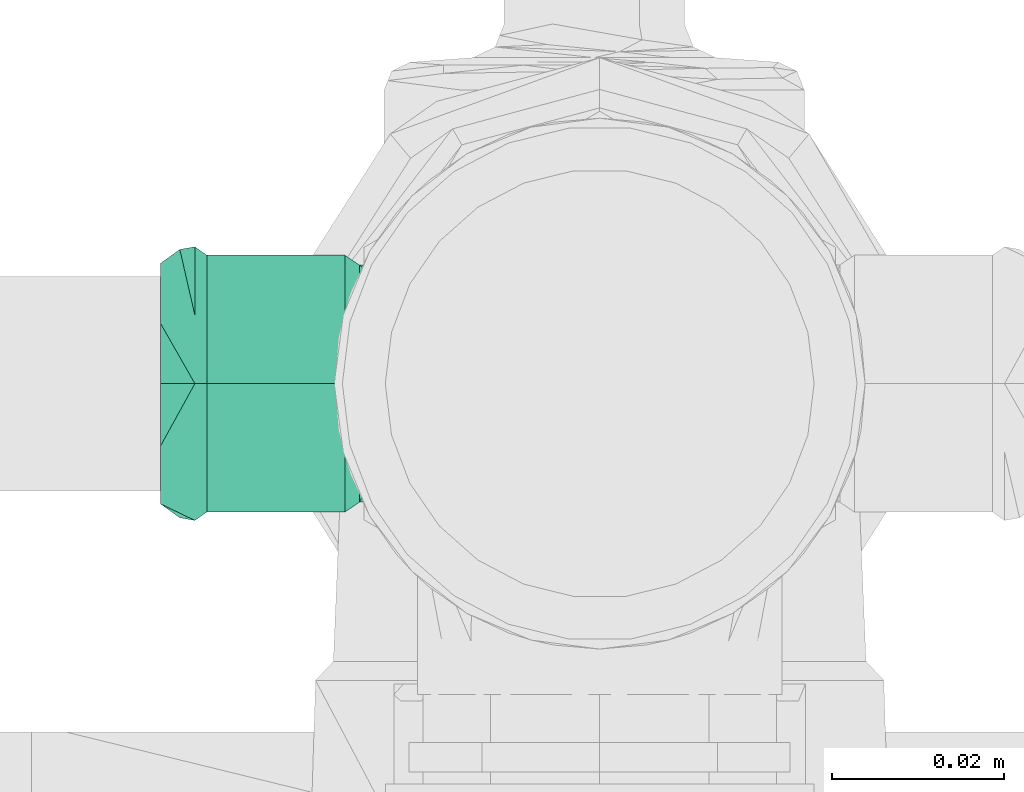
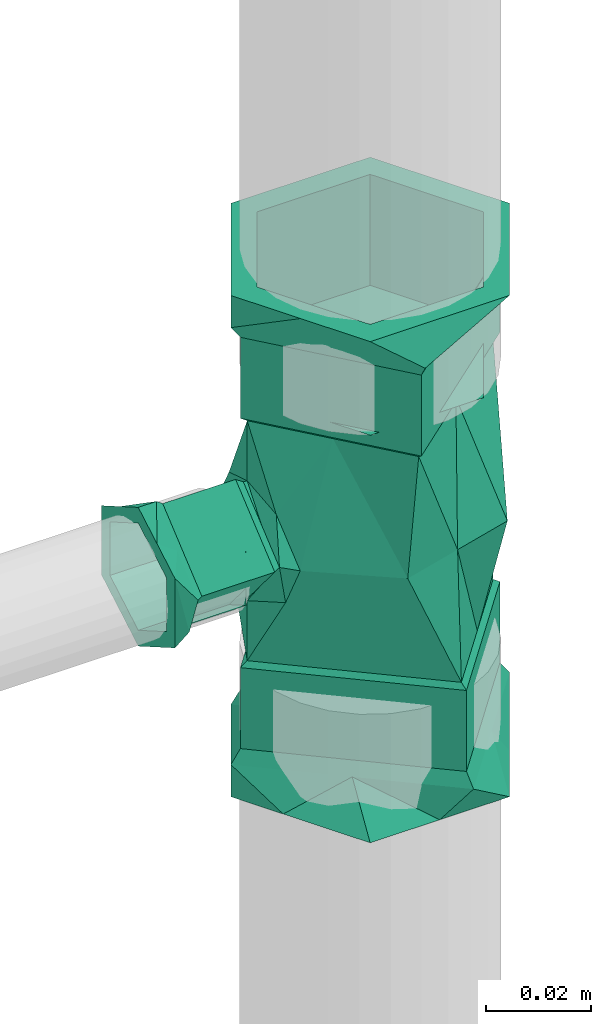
# One storey, part 288 of 589: 1 flow fitting.
"""IFC2X3 building model written with IfcOpenShell, lengths in millimetres."""

import ifcopenshell
import ifcopenshell.guid

model = None  # the IFC model being written
_history = None  # IfcOwnerHistory: only IFC2X3 demands one
_inside = {}  # id of a spatial element -> (the spatial element, [elements in it])
_under = {}  # id of a project, library or spatial element -> (it, [spatial elements below it])
_declared = {}  # id of a project -> (the project, [libraries it declares])
_typed = {}  # id of a type object -> (the type object, [elements of that type])
_made_of = {}  # id of a material, layer set ... -> (it, [elements and type objects made of it])


def new_model(schema):
    """Start an empty IFC model of exactly this schema.

    Asked for "IFC4X3", IfcOpenShell would pick the latest addendum, in which some entities
    have other attributes; the version numbers below select the first issue.
    IFC2X3 requires an IfcOwnerHistory on every rooted entity: one is made here for all.
    """
    global model, _history
    if schema == "IFC4X3":
        model = ifcopenshell.file(schema_version=(4, 3, 0, 0))
    else:
        model = ifcopenshell.file(schema=schema)
    _inside.clear()
    _under.clear()
    _declared.clear()
    _typed.clear()
    _made_of.clear()
    _history = None
    if model.schema == "IFC2X3":
        org = make("IfcOrganization", Name="unknown")
        user = make(
            "IfcPersonAndOrganization",
            ThePerson=make("IfcPerson", FamilyName="unknown"),
            TheOrganization=org,
        )
        app = make(
            "IfcApplication",
            ApplicationDeveloper=org,
            Version="unknown",
            ApplicationFullName="unknown",
            ApplicationIdentifier="unknown",
        )
        _history = make(
            "IfcOwnerHistory",
            OwningUser=user,
            OwningApplication=app,
            ChangeAction="ADDED",
            CreationDate=0,
        )
    return model


def make(cls, **values):
    """One entity of the class cls with the attributes given. An attribute that is None is left unset."""
    return model.create_entity(
        cls, **{name: value for name, value in values.items() if value is not None}
    )


def entity(cls, *values):
    """Any entity or typed value of the class cls, its attributes in the order of the schema. None: left unset."""
    e = model.create_entity(cls)
    for i, value in enumerate(values):
        if value is not None:
            e[i] = value
    return e


def rooted(cls, **values):
    """An entity with a GlobalId (a new one), such as an element, a storey or a relation."""
    return make(cls, GlobalId=ifcopenshell.guid.new(), OwnerHistory=_history, **values)


def si_unit(unit_type, name, prefix=None):
    """IfcSIUnit, for example si_unit("LENGTHUNIT", "METRE", prefix="MILLI")."""
    return make("IfcSIUnit", UnitType=unit_type, Prefix=prefix, Name=name)


def converted_unit(unit_type, name, factor, base, dimensions=None, offset=None):
    """IfcConversionBasedUnit, such as the inch: factor (a typed value) times the base unit."""
    return make(
        "IfcConversionBasedUnit"
        if offset is None
        else "IfcConversionBasedUnitWithOffset",
        ConversionOffset=offset,
        Dimensions=None
        if dimensions is None
        else entity("IfcDimensionalExponents", *dimensions),
        UnitType=unit_type,
        Name=name,
        ConversionFactor=make(
            "IfcMeasureWithUnit", ValueComponent=factor, UnitComponent=base
        ),
    )


def derived_unit(unit_type, elements):
    """IfcDerivedUnit: a product of units, each with its exponent."""
    return make(
        "IfcDerivedUnit",
        Elements=[
            make("IfcDerivedUnitElement", Unit=unit, Exponent=power)
            for unit, power in elements
        ],
        UnitType=unit_type,
    )


def assignment(units):
    """IfcUnitAssignment: the units of a project."""
    return None if units is None else make("IfcUnitAssignment", Units=units)


def point(xyz):
    """IfcCartesianPoint."""
    return None if xyz is None else make("IfcCartesianPoint", Coordinates=xyz)


def direction(xyz):
    """IfcDirection."""
    return None if xyz is None else make("IfcDirection", DirectionRatios=xyz)


def frame(location, z_axis=None, x_axis=None):
    """IfcAxis2Placement3D, a coordinate frame: its origin and axes. An axis left out is left unset."""
    return make(
        "IfcAxis2Placement3D",
        Location=point(location),
        Axis=direction(z_axis),
        RefDirection=direction(x_axis),
    )


def origin():
    """The frame at (0, 0, 0) with its axes left unset."""
    return frame((0.0, 0.0, 0.0))


def place(relative_to, where):
    """IfcLocalPlacement: puts the frame where relative to a parent placement (None: the world)."""
    return make(
        "IfcLocalPlacement", PlacementRelTo=relative_to, RelativePlacement=where
    )


def context(
    kind, dimensions, precision=None, world=None, true_north=None, identifier=None
):
    """IfcGeometricRepresentationContext, for example the 3D "Model" context."""
    return make(
        "IfcGeometricRepresentationContext",
        ContextIdentifier=identifier,
        ContextType=kind,
        CoordinateSpaceDimension=dimensions,
        Precision=precision,
        WorldCoordinateSystem=world,
        TrueNorth=true_north,
    )


def subcontext(parent, identifier, kind, view, scale=None):
    """IfcGeometricRepresentationSubContext, for example "Body" below "Model"."""
    return make(
        "IfcGeometricRepresentationSubContext",
        ContextIdentifier=identifier,
        ContextType=kind,
        ParentContext=parent,
        TargetScale=scale,
        TargetView=view,
    )


def project(units=None, contexts=None):
    """IfcProject with its units and contexts."""
    return rooted(
        "IfcProject",
        Name="project",
        RepresentationContexts=contexts,
        UnitsInContext=assignment(units),
    )


def spatial(cls, under=None, at=None, **own):
    """A site, building, storey or space (cls), placed at a placement, below another one or the project."""
    s = rooted(cls, ObjectPlacement=at, **own)
    if under is not None:
        _under.setdefault(under.id(), (under, []))[1].append(s)
    return s


def faces_of(points, faces, orient=None, outer=None):
    """IfcFace entities. A face is a list of loops; a loop is a list of indices into points, from 0.

    orient and outer hold one flag for each loop. By default every Orientation is true, the
    first loop of a face is its IfcFaceOuterBound and the others are IfcFaceBound.
    """
    made = []
    for i, loops in enumerate(faces):
        bounds = []
        for j, loop in enumerate(loops):
            is_outer = j == 0 if outer is None else outer[i][j]
            bounds.append(
                make(
                    "IfcFaceOuterBound" if is_outer else "IfcFaceBound",
                    Bound=make("IfcPolyLoop", Polygon=[points[k] for k in loop]),
                    Orientation=True if orient is None else orient[i][j],
                )
            )
        made.append(make("IfcFace", Bounds=bounds))
    return made


def faceted_brep(points, faces, orient=None, outer=None, voids=None):
    """IfcFacetedBrep: a solid bounded by flat faces; with voids (closed shells), ...WithVoids."""
    shared = [point(p) for p in points]
    hull = make("IfcClosedShell", CfsFaces=faces_of(shared, faces, orient, outer))
    if voids is None:
        return make("IfcFacetedBrep", Outer=hull)
    return make(
        "IfcFacetedBrepWithVoids",
        Outer=hull,
        Voids=[
            make(cls, CfsFaces=faces_of(shared, fs, o, b)) for cls, fs, o, b in voids
        ],
    )


def shape(context_of_items, identifier, shape_type, items):
    """IfcShapeRepresentation: the items that make up one representation, for example the "Body"."""
    return make(
        "IfcShapeRepresentation",
        ContextOfItems=context_of_items,
        RepresentationIdentifier=identifier,
        RepresentationType=shape_type,
        Items=items,
    )


def source(mapping_origin, context_of_items, identifier, shape_type, items):
    """IfcRepresentationMap: a shape defined once, which mapped items show again and again."""
    return make(
        "IfcRepresentationMap",
        MappingOrigin=mapping_origin,
        MappedRepresentation=shape(context_of_items, identifier, shape_type, items),
    )


def transform(
    local_origin,
    x_axis=None,
    y_axis=None,
    z_axis=None,
    scale=None,
    scale2=None,
    scale3=None,
    uniform=True,
):
    """IfcCartesianTransformationOperator3D, or its non-uniform kind. x_axis, y_axis, z_axis: its Axis1, 2, 3."""
    if uniform:
        return make(
            "IfcCartesianTransformationOperator3D",
            Axis1=direction(x_axis),
            Axis2=direction(y_axis),
            LocalOrigin=point(local_origin),
            Scale=scale,
            Axis3=direction(z_axis),
        )
    return make(
        "IfcCartesianTransformationOperator3DnonUniform",
        Axis1=direction(x_axis),
        Axis2=direction(y_axis),
        LocalOrigin=point(local_origin),
        Scale=scale,
        Axis3=direction(z_axis),
        Scale2=scale2,
        Scale3=scale3,
    )


def mapped(mapping_source, mapping_target):
    """IfcMappedItem: shows the shape of a source again, moved by a transform."""
    return make(
        "IfcMappedItem", MappingSource=mapping_source, MappingTarget=mapping_target
    )


def material(Name=None, Category=None):
    """IfcMaterial."""
    return make("IfcMaterial", Name=Name, Category=Category)


def made_of(thing, what):
    """Note that an element or type object is made of a material, layer set ...; save() writes the relation."""
    if what is not None:
        _made_of.setdefault(what.id(), (what, []))[1].append(thing)
    return thing


def type_object(cls, material=None, **own):
    """A type object (cls), such as IfcWallType, which elements share."""
    return made_of(rooted(cls, **own), material)


def type_shapes(of_type, sources):
    """Give a type object the sources (RepresentationMaps) that its elements show as mapped items."""
    of_type.RepresentationMaps = sources


def element(
    cls,
    number,
    at=None,
    inside=None,
    cuts=None,
    type_object=None,
    material=None,
    context=None,
    identifier="Body",
    shape_type=None,
    held_by="IfcProductDefinitionShape",
    body=None,
    shapes=None,
    **own,
):
    """One element of the class cls, such as IfcWall. Its Tag is "e" and its number.

    at: its placement. inside: the storey or other place that contains it. cuts: it is an
    opening in that element (IfcRelVoidsElement). A single representation is given by context,
    identifier, shape_type and body (its items); several are given by shapes. held_by: the class
    of the entity that holds the representations. save() writes the other relations.
    """
    e = rooted(cls, Tag="e%d" % number, ObjectPlacement=at, **own)
    if body is not None:
        shapes = [shape(context, identifier, shape_type, body)]
    if shapes is not None:
        e.Representation = make(held_by, Representations=shapes)
    if inside is not None:
        _inside.setdefault(inside.id(), (inside, []))[1].append(e)
    if cuts is not None:
        rooted(
            "IfcRelVoidsElement", RelatingBuildingElement=cuts, RelatedOpeningElement=e
        )
    if type_object is not None:
        _typed.setdefault(type_object.id(), (type_object, []))[1].append(e)
    return made_of(e, material)


def aggregate(whole, parts):
    """IfcRelAggregates: a whole, such as a stair, and the parts it consists of."""
    return rooted("IfcRelAggregates", RelatingObject=whole, RelatedObjects=parts)


def save(model, path):
    """Write the relations noted so far, then the file.

    IfcRelAggregates (storeys below a building ...), IfcRelContainedInSpatialStructure (elements
    in a storey), IfcRelDefinesByType, IfcRelAssociatesMaterial and IfcRelDeclares: one each for
    every whole, place, type object, material and project.
    """
    for whole, parts in _under.values():
        aggregate(whole, parts)
    for where, things in _inside.values():
        rooted(
            "IfcRelContainedInSpatialStructure",
            RelatedElements=things,
            RelatingStructure=where,
        )
    for kind, things in _typed.values():
        rooted("IfcRelDefinesByType", RelatedObjects=things, RelatingType=kind)
    for what, things in _made_of.values():
        rooted("IfcRelAssociatesMaterial", RelatedObjects=things, RelatingMaterial=what)
    for by, libraries in _declared.values():
        rooted("IfcRelDeclares", RelatingContext=by, RelatedDefinitions=libraries)
    model.write(path)


model = new_model("IFC2X3")

# Units and contexts
model_context = context("Model", 3, precision=0.01, world=origin(), true_north=direction((6.123031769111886e-17, 1.0)))
body_context = subcontext(model_context, "Body", "Model", "MODEL_VIEW")
ifc_project = project(units=[si_unit("LENGTHUNIT", "METRE", prefix="MILLI"), si_unit("AREAUNIT", "SQUARE_METRE"), si_unit("VOLUMEUNIT", "CUBIC_METRE"), converted_unit("PLANEANGLEUNIT", "DEGREE", entity("IfcRatioMeasure", 0.017453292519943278), si_unit("PLANEANGLEUNIT", "RADIAN"), dimensions=[0, 0, 0, 0, 0, 0, 0]), si_unit("MASSUNIT", "GRAM", prefix="KILO"), derived_unit("MASSDENSITYUNIT", [(si_unit("MASSUNIT", "GRAM", prefix="KILO"), 1), (si_unit("LENGTHUNIT", "METRE"), -3)]), derived_unit("IONCONCENTRATIONUNIT", [(si_unit("MASSUNIT", "GRAM", prefix="KILO"), 1), (si_unit("LENGTHUNIT", "METRE"), -3)]), derived_unit("MOMENTOFINERTIAUNIT", [(si_unit("LENGTHUNIT", "METRE"), 4)]), si_unit("TIMEUNIT", "SECOND"), si_unit("FREQUENCYUNIT", "HERTZ"), si_unit("THERMODYNAMICTEMPERATUREUNIT", "DEGREE_CELSIUS"), derived_unit("THERMALTRANSMITTANCEUNIT", [(si_unit("MASSUNIT", "GRAM", prefix="KILO"), 1), (si_unit("THERMODYNAMICTEMPERATUREUNIT", "KELVIN"), -1), (si_unit("TIMEUNIT", "SECOND"), -3)]), derived_unit("THERMALCONDUCTANCEUNIT", [(si_unit("MASSUNIT", "GRAM", prefix="KILO"), 1), (si_unit("THERMODYNAMICTEMPERATUREUNIT", "KELVIN"), -1), (si_unit("TIMEUNIT", "SECOND"), -3), (si_unit("LENGTHUNIT", "METRE"), 1)]), derived_unit("VOLUMETRICFLOWRATEUNIT", [(si_unit("LENGTHUNIT", "METRE"), 3), (si_unit("TIMEUNIT", "SECOND"), -1)]), derived_unit("MASSFLOWRATEUNIT", [(si_unit("MASSUNIT", "GRAM", prefix="KILO"), 1), (si_unit("TIMEUNIT", "SECOND"), -1)]), derived_unit("ROTATIONALFREQUENCYUNIT", [(si_unit("TIMEUNIT", "SECOND"), -1)]), si_unit("ELECTRICCURRENTUNIT", "AMPERE"), si_unit("ELECTRICVOLTAGEUNIT", "VOLT"), si_unit("POWERUNIT", "WATT"), si_unit("FORCEUNIT", "NEWTON", prefix="KILO"), si_unit("ILLUMINANCEUNIT", "LUX"), si_unit("LUMINOUSFLUXUNIT", "LUMEN"), si_unit("LUMINOUSINTENSITYUNIT", "CANDELA"), derived_unit("USERDEFINED", [(si_unit("MASSUNIT", "GRAM", prefix="KILO"), -1), (si_unit("LENGTHUNIT", "METRE"), -2), (si_unit("TIMEUNIT", "SECOND"), 3), (si_unit("LUMINOUSFLUXUNIT", "LUMEN"), 1)]), derived_unit("USERDEFINED", [(si_unit("MASSUNIT", "GRAM", prefix="KILO"), 1), (si_unit("TIMEUNIT", "SECOND"), -3), (si_unit("LENGTHUNIT", "METRE"), 3), (si_unit("ELECTRICCURRENTUNIT", "AMPERE"), -2)]), derived_unit("SOUNDPOWERUNIT", [(si_unit("MASSUNIT", "GRAM", prefix="KILO"), 1), (si_unit("TIMEUNIT", "SECOND"), -3), (si_unit("LENGTHUNIT", "METRE"), 2)]), derived_unit("SOUNDPRESSUREUNIT", [(si_unit("MASSUNIT", "GRAM", prefix="KILO"), 1), (si_unit("LENGTHUNIT", "METRE"), -1), (si_unit("TIMEUNIT", "SECOND"), -2)]), derived_unit("LINEARVELOCITYUNIT", [(si_unit("LENGTHUNIT", "METRE"), 1), (si_unit("TIMEUNIT", "SECOND"), -1)]), si_unit("PRESSUREUNIT", "PASCAL"), derived_unit("USERDEFINED", [(si_unit("MASSUNIT", "GRAM", prefix="KILO"), 1), (si_unit("LENGTHUNIT", "METRE"), -2), (si_unit("TIMEUNIT", "SECOND"), -2)]), derived_unit("LINEARFORCEUNIT", [(si_unit("MASSUNIT", "GRAM", prefix="KILO"), 1), (si_unit("TIMEUNIT", "SECOND"), -2)]), derived_unit("PLANARFORCEUNIT", [(si_unit("MASSUNIT", "GRAM", prefix="KILO"), 1), (si_unit("LENGTHUNIT", "METRE"), -1), (si_unit("TIMEUNIT", "SECOND"), -2)]), derived_unit("SPECIFICHEATCAPACITYUNIT", [(si_unit("THERMODYNAMICTEMPERATUREUNIT", "KELVIN"), -1), (si_unit("LENGTHUNIT", "METRE"), 2), (si_unit("TIMEUNIT", "SECOND"), -2)]), derived_unit("HEATINGVALUEUNIT", [(si_unit("LENGTHUNIT", "METRE"), 2), (si_unit("TIMEUNIT", "SECOND"), -2)]), derived_unit("VAPORPERMEABILITYUNIT", [(si_unit("LENGTHUNIT", "METRE"), -1), (si_unit("TIMEUNIT", "SECOND"), 1)]), derived_unit("DYNAMICVISCOSITYUNIT", [(si_unit("MASSUNIT", "GRAM", prefix="KILO"), 1), (si_unit("TIMEUNIT", "SECOND"), -1), (si_unit("LENGTHUNIT", "METRE"), -1)]), derived_unit("THERMALEXPANSIONCOEFFICIENTUNIT", [(si_unit("THERMODYNAMICTEMPERATUREUNIT", "KELVIN"), -1)]), derived_unit("MODULUSOFELASTICITYUNIT", [(si_unit("MASSUNIT", "GRAM", prefix="KILO"), 1), (si_unit("LENGTHUNIT", "METRE"), -1), (si_unit("TIMEUNIT", "SECOND"), -2)]), derived_unit("ISOTHERMALMOISTURECAPACITYUNIT", [(si_unit("LENGTHUNIT", "METRE"), 3), (si_unit("MASSUNIT", "GRAM", prefix="KILO"), -1)]), derived_unit("MOISTUREDIFFUSIVITYUNIT", [(si_unit("TIMEUNIT", "SECOND"), -1), (si_unit("LENGTHUNIT", "METRE"), 2)])], contexts=[model_context])

# Site, building, storey
site_placement = place(None, origin())
site = spatial("IfcSite", under=ifc_project, at=site_placement, Name="Default", CompositionType="ELEMENT")
building_placement = place(site_placement, origin())
building = spatial("IfcBuilding", under=site, at=building_placement, CompositionType="ELEMENT")
storey_placement = place(building_placement, frame((0.0, 0.0, 100.0)))
storey = spatial("IfcBuildingStorey", under=building, at=storey_placement, Name="TÉRREO", CompositionType="ELEMENT", Elevation=100.0)

# Flow fitting
ifc_material = material(Name="PVC Marrom")
pipe_fitting_type = type_object("IfcPipeFittingType", Name="PVC Marrom Soldável_Tê e Tê de Reducão_Rodrigo MEP:Tê", PredefinedType="NOTDEFINED", material=ifc_material)
shared_shape = source(origin(), body_context, "Body", "Brep", [
    faceted_brep([(8.099999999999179, -51.19999999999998, -14.029611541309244), (12.500000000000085, -51.19999999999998, 0.0), (6.249999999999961, -51.199999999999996, -10.82531754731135), (12.006116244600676, -51.19999999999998, -7.26401974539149), (-6.250000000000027, -51.20000000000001, -10.825317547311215), (0.0, -51.2, -14.02961154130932), (16.20000000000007, -51.199999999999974, 0.0), (6.250000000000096, -51.199999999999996, 10.825317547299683), (12.15000000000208, -51.19999999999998, 7.014805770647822), (8.10000000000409, -51.19999999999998, 14.029611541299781), (-6.249999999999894, -51.20000000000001, 10.825317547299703), (0.0, -51.2, 14.02961154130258), (-8.09999999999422, -51.20000000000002, 14.029611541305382), (-12.00611625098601, -51.20000000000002, 7.2640197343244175), (-16.199999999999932, -51.200000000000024, 0.0), (-12.499999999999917, -51.20000000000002, 0.0), (-12.149999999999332, -51.20000000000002, -7.014805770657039), (-8.099999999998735, -51.20000000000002, -14.0296115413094), (-9.505660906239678, -47.19999999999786, 7.977099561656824), (-2.81132181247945, -47.19999999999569, 15.95419912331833), (4.194176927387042, -48.95626714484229, 15.647647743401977), (-16.199999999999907, -47.200000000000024, 0.0), (16.200000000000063, -47.199999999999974, 0.0), (6.694339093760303, -47.19999999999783, 7.977099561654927), (10.200288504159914, -47.19999999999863, 5.034925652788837), (1.941508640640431, -47.1999999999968, 11.965649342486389), (9.50766188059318, -47.19999999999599, -7.976746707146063), (2.8153237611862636, -47.19999999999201, -15.953493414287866), (-4.191233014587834, -48.95635467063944, -15.648436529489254), (-6.692338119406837, -47.199999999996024, -7.97674670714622), (-10.19988795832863, -47.199999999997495, -5.033979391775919), (-1.938507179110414, -47.199999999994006, -11.965120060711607), (-6.250000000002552, -47.2, -10.825317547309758), (-9.37499999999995, -47.20000000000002, -5.412658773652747), (-12.499999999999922, -47.20000000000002, 0.0), (-8.816048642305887, -45.80000000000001, -6.380790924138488), (-6.249999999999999, -45.80000000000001, -10.82531754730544), (-6.249999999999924, -33.7, -10.825317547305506), (-12.499999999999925, -45.80000000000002, 0.0), (-12.499999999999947, -33.70000000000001, 0.0), (0.0, -47.199999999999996, -10.82531754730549), (6.250000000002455, -47.19999999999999, -10.825317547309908), (6.249999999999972, -45.8, -10.825317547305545), (0.0, -45.800000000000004, -10.825317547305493), (6.250000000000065, -33.699999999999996, -10.825317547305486), (12.50000000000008, -47.19999999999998, 0.0), (8.816048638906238, -47.19999999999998, -6.380790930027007), (9.375000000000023, -45.8, -5.4126587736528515), (12.500000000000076, -45.799999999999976, 0.0), (12.500000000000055, -33.69999999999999, 0.0), (6.249999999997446, -47.19999999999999, 10.825317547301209), (9.37500000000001, -47.19999999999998, 5.4126587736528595), (8.81604864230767, -45.8, 6.380790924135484), (6.249999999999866, -45.8, 10.825317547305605), (6.2499999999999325, -33.699999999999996, 10.825317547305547), (0.0, -47.199999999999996, 10.82531754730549), (-6.2499999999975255, -47.2, 10.82531754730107), (-6.250000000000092, -45.80000000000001, 10.825317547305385), (0.0, -45.800000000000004, 10.825317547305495), (-6.250000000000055, -33.7, 10.825317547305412), (-8.816048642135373, -47.20000000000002, 6.380790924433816), (-9.375000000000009, -45.80000000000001, 5.412658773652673), (-9.570641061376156, -45.79999999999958, -4.724127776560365), (2.6377834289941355, -45.799999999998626, -14.96937201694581), (15.200000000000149, -45.799999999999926, 0.0), (-15.199999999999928, -45.800000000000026, 0.0), (-9.79862070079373, -45.79999999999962, -4.5328084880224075), (8.918891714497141, -45.79999999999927, -7.484686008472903), (-3.941282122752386, -45.799999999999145, -9.44825555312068), (-4.397241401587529, -45.79999999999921, -9.065616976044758), (10.739615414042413, -45.80000000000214, 3.7421774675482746), (6.279230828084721, -45.80000000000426, 7.484354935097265), (1.8188462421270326, -45.80000000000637, 11.226532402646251), (-2.641538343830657, -45.80000000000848, 14.96870987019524), (-6.443631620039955, -45.80000000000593, 10.436910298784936), (-8.920769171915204, -45.800000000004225, 7.484354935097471), (-10.245724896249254, -45.80000000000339, 5.9051107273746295), (-8.918891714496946, -29.700000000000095, 7.4846860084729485), (9.798620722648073, -29.70000000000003, 4.532808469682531), (6.281108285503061, -29.700000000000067, 7.484686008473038), (4.3972414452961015, -29.70000000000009, 9.065616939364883), (-15.199999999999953, -29.700000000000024, 0.0), (-2.637783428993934, -29.70000000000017, 14.96937201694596), (15.200000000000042, -29.699999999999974, 0.0), (8.920769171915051, -29.699999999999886, -7.484354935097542), (2.6415383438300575, -29.699999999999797, -14.968709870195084), (-6.279230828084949, -29.699999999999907, -7.484354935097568), (-8.651615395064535, -28.0, -4.521903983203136), (-5.801761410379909, -28.0, -6.91348643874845), (-3.263230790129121, -28.0, -9.043807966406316), (-14.039999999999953, -28.0, 0.0), (2.436477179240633, -28.0, -13.826972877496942), (8.238238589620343, -28.0, -6.913486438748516), (14.040000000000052, -28.0, 0.0), (5.800025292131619, -28.0, 6.913180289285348), (-2.439949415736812, -28.0, 13.826360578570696), (-9.297801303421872, -28.0, 5.652333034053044), (-8.239974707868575, -28.0, 6.913180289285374), (-13.993250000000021, -27.149999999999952, 0.0), (-8.698026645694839, -24.90789224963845, -10.803675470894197), (0.0, -23.389258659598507, -13.786409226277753), (13.993249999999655, -27.149999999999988, 0.0), (10.886120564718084, -25.729354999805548, -8.667340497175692), (8.698026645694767, -24.907892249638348, 10.803675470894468), (0.0, -23.389258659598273, 13.786409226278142), (-10.886120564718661, -25.729354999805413, 8.667340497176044), (-32.59999999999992, -25.0, 0.0), (-32.59999999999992, -19.790106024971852, 9.023801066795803), (-32.59999999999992, -12.500000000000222, 21.650635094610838), (-32.59999999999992, 0.0, 21.65063509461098), (-32.59999999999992, 12.499999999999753, 21.65063509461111), (-32.59999999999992, 18.749999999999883, 10.825317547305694), (-32.59999999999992, 25.0, 0.0), (-32.59999999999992, 19.790105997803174, -9.023801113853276), (-32.59999999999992, 12.500000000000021, -21.65063509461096), (-32.59999999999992, 0.0, -21.65063509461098), (-32.59999999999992, -12.49999999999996, -21.650635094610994), (-32.59999999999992, -18.749999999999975, -10.825317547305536), (-48.0, -12.500000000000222, 21.650635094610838), (-48.0, -18.750000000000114, 10.825317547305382), (-58.50000000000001, -18.75000000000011, 10.82531754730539), (-58.50000000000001, -12.500000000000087, 21.650635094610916), (-48.0, -19.790106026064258, 9.02380106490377), (-48.0, -25.0, 0.0), (-58.50000000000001, -25.0, 0.0), (32.60000000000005, -25.0, 0.0), (32.60000000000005, -18.74999999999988, 10.825317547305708), (32.60000000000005, -12.499999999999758, 21.65063509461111), (58.5, -12.499999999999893, 21.650635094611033), (58.500000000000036, -19.97114481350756, 8.71023268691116), (58.5, -25.0, 0.0), (-48.0, 0.0, 21.650635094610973), (-48.0, 12.499999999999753, 21.65063509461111), (-58.50000000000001, 0.0, 21.650635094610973), (-58.50000000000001, 12.499999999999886, 21.650635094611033), (32.60000000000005, 0.0, 21.650635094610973), (32.60000000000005, 12.500000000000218, 21.650635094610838), (58.5, 12.500000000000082, 21.650635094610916), (58.5, 0.0, 21.650635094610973), (-48.0, 19.790106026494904, 9.023801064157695), (-48.0, 25.0, 0.0), (-48.0, 18.749999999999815, 10.825317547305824), (-58.49999999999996, 19.79010602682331, 9.023801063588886), (-58.50000000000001, 25.0, 0.0), (32.60000000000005, 19.97114481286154, 8.71023268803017), (32.60000000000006, 25.0, 0.0), (58.5, 25.0, 0.0), (58.5, 18.75000000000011, 10.825317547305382), (-48.0, 12.49999999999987, -21.650635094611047), (-48.0, 18.749999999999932, -10.825317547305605), (-58.50000000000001, 18.749999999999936, -10.825317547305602), (-58.50000000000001, 12.499999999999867, -21.650635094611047), (-48.0, 19.790106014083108, -9.023801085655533), (32.60000000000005, 18.749999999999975, -10.82531754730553), (32.60000000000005, 12.499999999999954, -21.650635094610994), (58.5, 12.5000000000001, -21.650635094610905), (58.500000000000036, 19.97114481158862, -8.710232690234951), (-48.0, 0.0, -21.65063509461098), (-48.0, -12.50000000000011, -21.650635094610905), (-58.50000000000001, 0.0, -21.65063509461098), (-58.50000000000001, -12.500000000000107, -21.650635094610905), (32.60000000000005, 0.0, -21.65063509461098), (32.60000000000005, -12.500000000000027, -21.65063509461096), (58.5, -12.499999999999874, -21.650635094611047), (58.5, 0.0, -21.65063509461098), (-48.0, -19.790106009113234, -9.02380109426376), (-48.0, -18.75000000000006, -10.825317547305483), (-58.49999999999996, -19.79010602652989, -9.023801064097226), (32.60000000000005, -19.971144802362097, -8.710232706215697), (58.5, -18.749999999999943, -10.825317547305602), (-28.0, 15.934137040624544, -13.368436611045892), (0.0, 27.15, 0.0), (0.0, 19.249777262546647, -19.145980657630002), (0.0, 6.194218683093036, -22.707339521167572), (-28.0, 20.511742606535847, -7.912286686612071), (-28.0, 27.15, 0.0), (0.0, -6.861339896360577, -26.268698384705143), (-28.0, 4.718274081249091, -26.73687322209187), (-28.0, -27.15, 0.0), (-28.0, -19.18293147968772, -6.684218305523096), (-28.0, -11.215862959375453, -13.368436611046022), (-28.0, -3.2487944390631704, -20.052654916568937), (-28.0, 10.326205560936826, -20.052654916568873), (-28.0, -15.930783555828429, 13.369027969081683), (0.0, -6.86133989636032, 26.268698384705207), (-28.0, -4.711567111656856, 26.738055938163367), (-28.0, -10.32117533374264, 20.053541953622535), (0.0, 19.24977726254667, 19.145980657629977), (-28.0, 19.60719441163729, 6.329881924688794), (-28.0, 11.219216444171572, 13.369027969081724), (0.0, 6.194218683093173, 22.707339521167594), (-28.0, 3.2538246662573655, 20.05354195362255), (-28.0, -20.510950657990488, 7.911215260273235), (-29.099999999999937, 16.81093734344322, -14.107648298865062), (-29.099999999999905, 10.891406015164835, -21.16147244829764), (-29.099999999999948, -12.730929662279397, -13.359198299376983), (-29.099999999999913, -3.8795274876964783, -20.787247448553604), (-29.099999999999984, -20.690464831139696, -6.679599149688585), (-29.099999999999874, 4.97187468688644, -28.215296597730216), (-29.1, 28.650000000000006, 0.0), (-29.099999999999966, 22.730468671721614, -7.053824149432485), (-29.09999999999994, -11.83906265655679, -14.107648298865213), (-29.100000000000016, -28.649999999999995, 0.0), (-29.100000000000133, -9.809464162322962, 22.456453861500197), (-29.100000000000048, -21.64498805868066, 8.349429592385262), (-29.10000000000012, 3.4282858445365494, 21.160536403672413), (-29.10000000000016, -4.978952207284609, 28.21404853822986), (-29.100000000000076, 11.835523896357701, 14.107024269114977), (-29.10000000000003, 20.242761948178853, 7.053512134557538), (-29.100000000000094, -14.639976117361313, 16.698859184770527), (-29.10000000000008, -16.814476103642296, 14.107024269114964), (-48.0, -4.978952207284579, 28.214048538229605), (-48.0, 28.650000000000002, 0.0), (-48.0, 12.939627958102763, 13.18070205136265), (-48.0, 11.835523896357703, 14.107024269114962), (-48.0, -16.81447610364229, 14.107024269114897), (-48.0, -28.650000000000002, 0.0), (-48.0, 4.971874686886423, -28.215296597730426), (-48.0, -12.94067667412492, -13.183179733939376), (-48.0, -11.839062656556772, -14.107648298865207), (-48.0, 16.81093734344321, -14.107648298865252), (-51.0, 16.175349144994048, -17.370576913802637), (-51.0, 18.04585747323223, -15.141239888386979), (-51.0, 30.75, 0.0), (-51.0, -12.704142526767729, -15.141239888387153), (-51.0, 5.341714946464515, -30.282479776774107), (-51.0, -30.74999999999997, 0.0), (-51.0, -5.3380546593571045, 30.283125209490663), (-51.0, -18.044027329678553, 15.141562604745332), (-51.0, 4.425812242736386, 22.08982117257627), (-51.0, 14.189679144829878, 13.896517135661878), (-51.0, 12.705972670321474, 15.141562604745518), (-58.50000000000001, -15.375000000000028, -26.63028116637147), (-58.500000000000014, -24.971948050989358, -10.007879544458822), (-58.50000000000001, 0.0, -26.6302811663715), (-58.50000000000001, -30.75, 0.0), (-58.50000000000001, -23.06249999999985, 13.315140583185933), (-58.50000000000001, -15.374999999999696, 26.630281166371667), (-58.50000000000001, 0.0, 26.6302811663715), (-58.50000000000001, 15.375000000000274, 26.63028116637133), (-58.500000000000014, 24.97194806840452, 10.007879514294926), (-58.50000000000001, 30.75, 0.0), (-58.50000000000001, 23.062499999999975, -13.315140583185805), (-58.50000000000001, 15.374999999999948, -26.630281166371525), (51.0, 30.749999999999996, 0.0), (58.5, 23.06249999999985, 13.315140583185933), (58.5, 30.75, 0.0), (51.0, -30.749999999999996, 0.0), (58.5, -30.75, 0.0), (58.5, -24.97194806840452, 10.007879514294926), (58.5, -23.062499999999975, -13.315140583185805), (58.5, 24.971948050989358, -10.007879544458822), (28.0, -15.934137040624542, -13.36843661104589), (28.0, -27.15, 0.0), (28.0, -4.718274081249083, -26.736873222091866), (28.0, -10.326205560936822, -20.05265491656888), (28.0, 27.15, 0.0), (28.0, 19.182931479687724, -6.6842183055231), (28.0, 11.215862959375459, -13.368436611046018), (28.0, 3.248794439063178, -20.052654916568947), (28.0, -20.511742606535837, -7.912286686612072), (28.0, 15.930783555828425, 13.369027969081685), (28.0, 20.51095065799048, 7.9112152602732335), (28.0, 4.711567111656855, 26.73805593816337), (28.0, -19.607194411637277, 6.329881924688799), (28.0, -11.21921644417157, 13.36902796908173), (28.0, -3.2538246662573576, 20.05354195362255), (28.0, 10.321175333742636, 20.053541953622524), (29.099999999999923, -16.81093734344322, -14.107648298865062), (29.09999999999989, -10.891406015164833, -21.16147244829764), (29.099999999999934, 12.730929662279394, -13.359198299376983), (29.09999999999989, 3.879527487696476, -20.787247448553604), (29.099999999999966, 20.690464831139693, -6.679599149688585), (29.099999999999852, -4.971874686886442, -28.215296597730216), (29.1, -28.650000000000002, 0.0), (29.099999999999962, -22.73046867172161, -7.053824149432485), (29.099999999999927, 11.83906265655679, -14.107648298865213), (29.1, 28.64999999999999, 0.0), (29.10000000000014, 9.809464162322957, 22.45645386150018), (29.10000000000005, 21.644988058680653, 8.349429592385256), (29.100000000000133, -3.4282858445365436, 21.160536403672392), (29.100000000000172, 4.978952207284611, 28.214048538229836), (29.100000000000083, -11.83552389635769, 14.107024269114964), (29.100000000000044, -20.242761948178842, 7.053512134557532), (29.1000000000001, 14.639976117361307, 16.69885918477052), (29.10000000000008, 16.814476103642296, 14.107024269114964), (48.0, 4.978952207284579, 28.214048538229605), (48.0, -28.650000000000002, 0.0), (48.0, -12.939627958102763, 13.18070205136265), (48.0, -11.835523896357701, 14.107024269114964), (48.0, 16.81447610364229, 14.107024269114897), (48.0, 28.650000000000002, 0.0), (48.0, -4.971874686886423, -28.215296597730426), (48.0, 12.94067667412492, -13.183179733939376), (48.0, 11.83906265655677, -14.107648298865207), (48.0, -16.81093734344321, -14.107648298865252), (51.0, -16.174511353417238, -17.369443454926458), (51.0, -18.044027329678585, -15.141562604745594), (51.0, 12.70597267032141, -15.141562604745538), (51.0, -5.33805465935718, -30.283125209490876), (51.0, 5.341714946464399, 30.28247977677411), (51.0, 18.045857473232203, 15.141239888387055), (51.0, -4.423715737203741, 22.088869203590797), (51.0, -14.189146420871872, 13.895258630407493), (51.0, -12.70414252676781, 15.141239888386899), (58.5, 15.375000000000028, -26.63028116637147), (58.5, 0.0, -26.6302811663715), (58.5, 15.374999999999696, 26.630281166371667), (58.5, 0.0, 26.6302811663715), (58.5, -15.375000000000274, 26.63028116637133), (58.5, -15.374999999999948, -26.630281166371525)], [[[0, 1, 2]], [[1, 0, 3]], [[0, 2, 4]], [[4, 5, 0]], [[1, 3, 6]], [[7, 1, 6]], [[7, 6, 8]], [[7, 8, 9]], [[7, 9, 10]], [[10, 9, 11]], [[10, 11, 12]], [[10, 12, 13]], [[10, 13, 14]], [[14, 15, 10]], [[15, 14, 16]], [[15, 16, 17]], [[17, 4, 15]], [[4, 17, 5]], [[18, 12, 19]], [[12, 20, 19]], [[18, 21, 13]], [[21, 14, 13]], [[22, 8, 6]], [[20, 8, 23]], [[8, 22, 24, 23]], [[20, 23, 25, 19]], [[20, 12, 11, 9]], [[8, 20, 9]], [[12, 18, 13]], [[26, 0, 27]], [[0, 28, 27]], [[26, 22, 3]], [[22, 6, 3]], [[21, 16, 14]], [[28, 16, 29]], [[16, 21, 30, 29]], [[28, 29, 31, 27]], [[28, 0, 5, 17]], [[16, 28, 17]], [[0, 26, 3]], [[4, 32, 33]], [[4, 33, 34]], [[34, 15, 4]], [[33, 32, 35]], [[36, 35, 32]], [[37, 35, 36]], [[37, 38, 35]], [[38, 37, 39]], [[38, 34, 33]], [[33, 35, 38]], [[4, 2, 32]], [[2, 40, 32]], [[2, 41, 40]], [[42, 40, 41]], [[43, 40, 42]], [[44, 43, 42]], [[44, 36, 43]], [[44, 37, 36]], [[43, 36, 32]], [[32, 40, 43]], [[1, 45, 46]], [[1, 46, 41]], [[41, 2, 1]], [[47, 46, 45]], [[45, 48, 47]], [[49, 47, 48]], [[49, 42, 47]], [[42, 49, 44]], [[41, 46, 42]], [[47, 42, 46]], [[7, 50, 51]], [[7, 51, 45]], [[45, 1, 7]], [[51, 50, 52]], [[53, 52, 50]], [[54, 52, 53]], [[54, 48, 52]], [[48, 54, 49]], [[48, 45, 51]], [[51, 52, 48]], [[7, 10, 50]], [[10, 55, 50]], [[10, 56, 55]], [[57, 55, 56]], [[58, 55, 57]], [[59, 58, 57]], [[59, 53, 58]], [[59, 54, 53]], [[58, 53, 50]], [[50, 55, 58]], [[15, 34, 60]], [[15, 60, 56]], [[56, 10, 15]], [[61, 60, 34]], [[34, 38, 61]], [[39, 61, 38]], [[39, 57, 61]], [[57, 39, 59]], [[56, 60, 57]], [[61, 57, 60]], [[30, 62, 29]], [[31, 63, 27]], [[22, 26, 64]], [[30, 65, 66, 62]], [[27, 63, 67]], [[67, 26, 27]], [[21, 65, 30]], [[63, 31, 68]], [[64, 26, 67]], [[29, 62, 69, 68]], [[31, 29, 68]], [[22, 64, 70]], [[25, 71, 72]], [[72, 19, 25]], [[71, 25, 23, 24]], [[19, 73, 74]], [[18, 74, 75, 76]], [[24, 70, 71]], [[76, 21, 18]], [[76, 65, 21]], [[22, 70, 24]], [[72, 73, 19]], [[19, 74, 18]], [[77, 75, 74, 73]], [[71, 78, 79, 80]], [[81, 65, 76, 75]], [[78, 71, 70, 64]], [[80, 82, 73]], [[81, 75, 77]], [[73, 82, 77]], [[78, 64, 83]], [[80, 73, 72, 71]], [[64, 84, 83]], [[84, 64, 67]], [[85, 63, 68, 69]], [[66, 65, 81]], [[85, 69, 86]], [[86, 69, 62, 66]], [[63, 85, 67]], [[81, 86, 66]], [[67, 85, 84]], [[81, 87, 86]], [[86, 87, 88, 89]], [[87, 81, 90]], [[85, 89, 91]], [[85, 91, 92]], [[92, 84, 85]], [[93, 84, 92]], [[89, 85, 86]], [[83, 84, 93]], [[93, 79, 78, 83]], [[94, 82, 80, 79]], [[82, 94, 95]], [[95, 77, 82]], [[96, 90, 81]], [[77, 95, 97, 96]], [[96, 81, 77]], [[93, 94, 79]], [[98, 88, 87, 90]], [[98, 99, 88]], [[99, 100, 91]], [[101, 93, 92]], [[99, 91, 89, 88]], [[101, 92, 102]], [[92, 91, 102]], [[102, 91, 100]], [[101, 94, 93]], [[101, 103, 94]], [[103, 104, 95]], [[98, 90, 96, 97]], [[103, 95, 94]], [[98, 97, 105]], [[97, 95, 105]], [[105, 95, 104]], [[39, 37, 44, 49, 54, 59]], [[106, 107, 108, 109, 110, 111, 112, 113, 114, 115, 116, 117]], [[118, 108, 119]], [[120, 118, 119]], [[121, 118, 120]], [[107, 119, 108]], [[107, 122, 119]], [[107, 123, 122]], [[107, 106, 123]], [[122, 123, 124]], [[124, 120, 122]], [[120, 119, 122]], [[125, 126, 127, 128, 129, 130]], [[110, 109, 131]], [[131, 132, 110]], [[131, 109, 118]], [[118, 109, 108]], [[121, 131, 118]], [[133, 131, 121]], [[132, 131, 133]], [[133, 134, 132]], [[127, 135, 136, 137, 138, 128]], [[112, 111, 139]], [[139, 140, 112]], [[111, 141, 139]], [[111, 132, 141]], [[110, 132, 111]], [[132, 134, 141]], [[142, 141, 134]], [[142, 140, 139]], [[142, 143, 140]], [[142, 139, 141]], [[137, 136, 144, 145, 146, 147]], [[148, 114, 149]], [[150, 148, 149]], [[151, 148, 150]], [[113, 149, 114]], [[113, 152, 149]], [[113, 140, 152]], [[113, 112, 140]], [[152, 140, 143]], [[143, 150, 152]], [[150, 149, 152]], [[145, 153, 154, 155, 156, 146]], [[116, 115, 157]], [[157, 158, 116]], [[157, 115, 148]], [[148, 115, 114]], [[151, 157, 148]], [[159, 157, 151]], [[158, 157, 159]], [[159, 160, 158]], [[154, 161, 162, 163, 164, 155]], [[106, 117, 165]], [[165, 123, 106]], [[117, 166, 165]], [[117, 158, 166]], [[116, 158, 117]], [[158, 160, 166]], [[167, 166, 160]], [[167, 123, 165]], [[167, 124, 123]], [[167, 165, 166]], [[163, 162, 168, 125, 130, 169]], [[170, 171, 172]], [[170, 172, 173]], [[171, 170, 174, 175]], [[176, 177, 173]], [[176, 100, 99]], [[99, 178, 179, 180]], [[99, 98, 178]], [[176, 180, 181, 177]], [[173, 177, 182, 170]], [[180, 176, 99]], [[183, 105, 104]], [[178, 98, 105]], [[184, 185, 186, 183]], [[187, 171, 175]], [[187, 175, 188, 189]], [[190, 187, 189]], [[190, 189, 191, 185]], [[105, 183, 192, 178]], [[185, 184, 190]], [[104, 184, 183]], [[170, 182, 193, 174]], [[177, 194, 182]], [[180, 179, 195]], [[181, 180, 196]], [[178, 197, 179]], [[198, 177, 181]], [[199, 175, 200]], [[194, 177, 198]], [[180, 195, 201, 196]], [[198, 181, 196]], [[175, 174, 200]], [[174, 193, 200]], [[197, 178, 202]], [[197, 195, 179]], [[194, 193, 182]], [[185, 203, 186]], [[202, 178, 204]], [[185, 205, 206]], [[207, 189, 208]], [[209, 183, 186]], [[175, 199, 188]], [[191, 207, 205]], [[183, 209, 210, 204]], [[188, 208, 189]], [[207, 191, 189]], [[185, 191, 205]], [[178, 192, 183, 204]], [[188, 199, 208]], [[203, 185, 206]], [[203, 209, 186]], [[211, 206, 205, 207, 208, 199, 212, 213, 214]], [[215, 216, 202, 204, 210, 209, 203, 206, 211]], [[217, 198, 196, 201, 195, 197, 202, 216, 218, 219]], [[220, 212, 199, 200, 193, 194, 198, 217]], [[217, 221, 220]], [[220, 221, 222, 223]], [[217, 224, 225]], [[226, 219, 218, 216]], [[223, 212, 220]], [[221, 217, 225]], [[224, 217, 219]], [[226, 224, 219]], [[211, 227, 228]], [[229, 227, 211]], [[229, 211, 214]], [[228, 215, 211]], [[212, 223, 230]], [[226, 215, 228]], [[214, 230, 231, 229]], [[216, 215, 226]], [[230, 214, 213, 212]], [[232, 124, 167]], [[124, 232, 233]], [[232, 167, 160]], [[232, 160, 159]], [[232, 159, 151]], [[151, 234, 232]], [[124, 233, 235]], [[235, 120, 124]], [[235, 121, 120]], [[121, 235, 236]], [[121, 236, 237]], [[237, 133, 121]], [[237, 134, 133]], [[134, 237, 238]], [[134, 238, 239]], [[134, 239, 240]], [[134, 240, 241]], [[241, 142, 134]], [[241, 143, 142]], [[143, 241, 242]], [[143, 242, 243]], [[243, 151, 150]], [[151, 243, 234]], [[243, 150, 143]], [[231, 240, 239]], [[240, 231, 230, 223]], [[223, 241, 240]], [[244, 245, 246]], [[226, 236, 235]], [[247, 248, 249]], [[227, 237, 228]], [[228, 237, 236]], [[226, 228, 236]], [[227, 239, 238, 237]], [[239, 227, 229, 231]], [[224, 233, 232]], [[224, 226, 233]], [[226, 235, 233]], [[247, 250, 248]], [[223, 242, 241]], [[244, 246, 251]], [[243, 222, 221, 225]], [[222, 243, 242]], [[223, 222, 242]], [[224, 234, 225]], [[225, 234, 243]], [[224, 232, 234]], [[252, 102, 100]], [[253, 101, 102]], [[176, 254, 255, 252]], [[172, 171, 256]], [[172, 256, 257, 258]], [[173, 172, 258]], [[173, 258, 259, 254]], [[102, 252, 260, 253]], [[254, 176, 173]], [[100, 176, 252]], [[261, 171, 187]], [[261, 187, 190]], [[171, 261, 262, 256]], [[184, 263, 190]], [[184, 104, 103]], [[103, 253, 264, 265]], [[103, 101, 253]], [[184, 265, 266, 263]], [[190, 263, 267, 261]], [[265, 184, 103]], [[252, 255, 268, 260]], [[254, 269, 255]], [[258, 257, 270]], [[259, 258, 271]], [[256, 272, 257]], [[273, 254, 259]], [[274, 253, 275]], [[269, 254, 273]], [[258, 270, 276, 271]], [[273, 259, 271]], [[253, 260, 275]], [[260, 268, 275]], [[272, 256, 277]], [[272, 270, 257]], [[269, 268, 255]], [[263, 278, 267]], [[277, 256, 279]], [[263, 280, 281]], [[282, 265, 283]], [[284, 261, 267]], [[253, 274, 264]], [[266, 282, 280]], [[261, 284, 285, 279]], [[264, 283, 265]], [[282, 266, 265]], [[263, 266, 280]], [[256, 262, 261, 279]], [[264, 274, 283]], [[278, 263, 281]], [[278, 284, 267]], [[286, 281, 280, 282, 283, 274, 287, 288, 289]], [[290, 291, 277, 279, 285, 284, 278, 281, 286]], [[292, 273, 271, 276, 270, 272, 277, 291, 293, 294]], [[295, 287, 274, 275, 268, 269, 273, 292]], [[292, 296, 295]], [[295, 296, 297, 247]], [[292, 298, 299]], [[244, 294, 293, 291]], [[247, 287, 295]], [[296, 292, 299]], [[298, 292, 294]], [[244, 298, 294]], [[286, 300, 301]], [[302, 300, 286]], [[302, 286, 289]], [[301, 290, 286]], [[287, 247, 303]], [[244, 290, 301]], [[289, 303, 304, 302]], [[291, 290, 244]], [[303, 289, 288, 287]], [[305, 146, 156]], [[146, 305, 251]], [[305, 156, 155]], [[305, 155, 164]], [[305, 164, 163]], [[163, 306, 305]], [[146, 251, 246]], [[246, 147, 146]], [[246, 137, 147]], [[137, 246, 245]], [[137, 245, 307]], [[307, 138, 137]], [[307, 128, 138]], [[128, 307, 308]], [[128, 308, 309]], [[128, 309, 249]], [[128, 249, 248]], [[248, 129, 128]], [[248, 130, 129]], [[130, 248, 250]], [[130, 250, 310]], [[310, 163, 169]], [[163, 310, 306]], [[310, 169, 130]], [[304, 249, 309]], [[249, 304, 303, 247]], [[300, 307, 301]], [[301, 307, 245]], [[244, 301, 245]], [[308, 300, 302, 304]], [[300, 308, 307]], [[304, 309, 308]], [[298, 251, 305]], [[298, 244, 251]], [[310, 297, 296, 299]], [[297, 310, 250]], [[247, 297, 250]], [[299, 305, 306, 310]], [[299, 298, 305]], [[145, 144, 136, 135, 127, 126, 125, 168, 162, 161, 154, 153]]]),
])
type_shapes(pipe_fitting_type, [shared_shape])
flow_fitting_placement = place(storey_placement, frame((6054.818506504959, 7535.924752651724, 1400.0), z_axis=(0.0, -1.0, 0.0), x_axis=(0.0, 0.0, -1.0)))
element("IfcFlowFitting", 1, at=flow_fitting_placement, inside=storey, type_object=pipe_fitting_type, material=ifc_material, Name="PVC Marrom Soldável_Tê e Tê de Reducão_Rodrigo MEP:Tê", ObjectType="PVC Marrom Soldável_Tê e Tê de Reducão_Rodrigo MEP:Tê", context=body_context, shape_type="MappedRepresentation", body=[
    mapped(shared_shape, transform((0.0, 0.0, 0.0), scale=1.0)),
])

save(model, "model.ifc")
